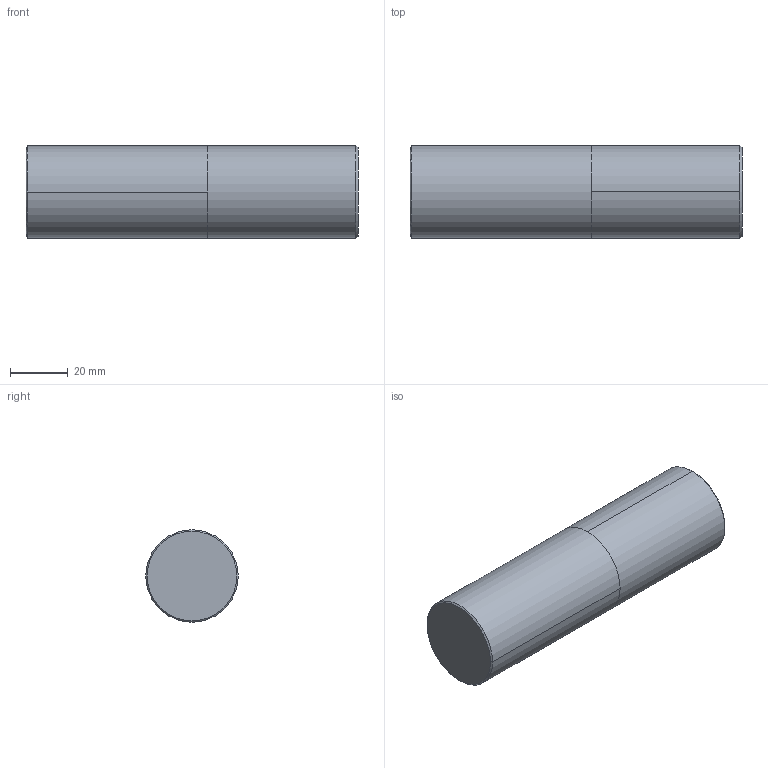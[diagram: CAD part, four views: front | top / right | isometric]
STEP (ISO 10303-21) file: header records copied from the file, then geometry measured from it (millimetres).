
FILE_DESCRIPTION (( 'STEP AP203' ), '1' );
FILE_NAME ('03-1766.STEP', '2021-09-10T07:23:23', ( 'USER' ), ( 'Hewlett-Packard Company' ), 'SwSTEP 2.0', 'SolidWorks 2014', '' );
FILE_SCHEMA (( 'CONFIG_CONTROL_DESIGN' ));
Length unit declared in the file: millimetre
Products named in the file (1): 03-1766
Bounding box: 115 x 32 x 32 mm (x, y, z)
Volume: 92451.8 mm3; surface area: 14706.4 mm2
Topology: 2 solids, 2 shells, 12 faces, 20 edges, 12 vertices
Faces by surface type: cylinder 4, cone 4, plane 4
Entity records: 359 total; most frequent: DIRECTION 58, CARTESIAN_POINT 45, ORIENTED_EDGE 40, AXIS2_PLACEMENT_3D 25, EDGE_CURVE 20, EDGE_LOOP 12, VERTEX_POINT 12, CIRCLE 12
